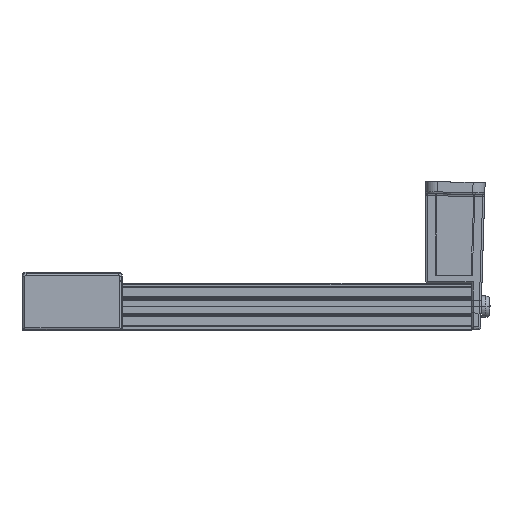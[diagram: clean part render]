
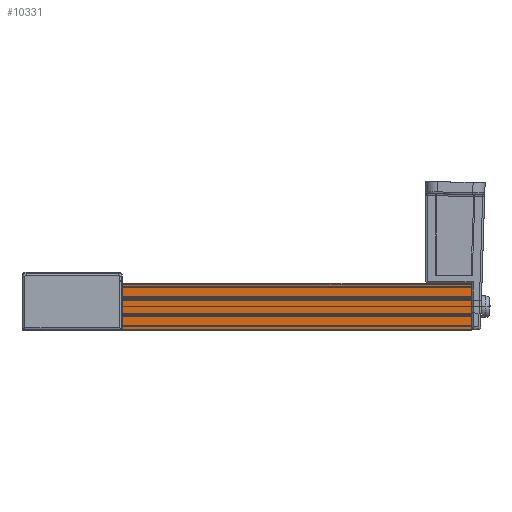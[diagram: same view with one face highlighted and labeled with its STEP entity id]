
A CAD part, left-side view. The second image highlights one B-rep face of the part: STEP entity #10331.
In plain terms, the highlighted planar face has unit normal (-1, 0, 0).
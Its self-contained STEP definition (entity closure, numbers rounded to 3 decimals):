
#240 = DIRECTION ( 'NONE',  ( 0., 0., -1. ) ) ;
#1299 = CARTESIAN_POINT ( 'NONE',  ( -221., 0., -3. ) ) ;
#1518 = EDGE_CURVE ( 'NONE', #10251, #11272, #12394, .T. ) ;
#1876 = EDGE_CURVE ( 'NONE', #12350, #20020, #8352, .T. ) ;
#2022 = DIRECTION ( 'NONE',  ( -1., 0., 0. ) ) ;
#2071 = CARTESIAN_POINT ( 'NONE',  ( -221., -87., -14.2 ) ) ;
#2562 = CARTESIAN_POINT ( 'NONE',  ( -221., -86.867, -3. ) ) ;
#3253 = LINE ( 'NONE', #2562, #11825 ) ;
#3851 = VECTOR ( 'NONE', #8587, 1000. ) ;
#3970 = ORIENTED_EDGE ( 'NONE', *, *, #20652, .T. ) ;
#4695 = LINE ( 'NONE', #1299, #8478 ) ;
#4831 = CARTESIAN_POINT ( 'NONE',  ( -221., -87., -14.2 ) ) ;
#6815 = CARTESIAN_POINT ( 'NONE',  ( -221., -87., -3.15 ) ) ;
#8054 = AXIS2_PLACEMENT_3D ( 'NONE', #10142, #2022, #240 ) ;
#8247 = DIRECTION ( 'NONE',  ( 0., 0., -1. ) ) ;
#8352 = LINE ( 'NONE', #2071, #18697 ) ;
#8424 = VERTEX_POINT ( 'NONE', #9983 ) ;
#8478 = VECTOR ( 'NONE', #8247, 1000. ) ;
#8587 = DIRECTION ( 'NONE',  ( 0., 0., -1. ) ) ;
#8886 = ORIENTED_EDGE ( 'NONE', *, *, #18126, .F. ) ;
#9162 = LINE ( 'NONE', #6815, #3851 ) ;
#9814 = CARTESIAN_POINT ( 'NONE',  ( -221., -86.867, -3. ) ) ;
#9983 = CARTESIAN_POINT ( 'NONE',  ( -221., -87., -3.15 ) ) ;
#10142 = CARTESIAN_POINT ( 'NONE',  ( -221., 0., -2.7 ) ) ;
#10251 = VERTEX_POINT ( 'NONE', #9814 ) ;
#10331 = ADVANCED_FACE ( 'NONE', ( #17259 ), #17796, .T. ) ;
#10778 = EDGE_CURVE ( 'NONE', #8424, #12350, #9162, .T. ) ;
#10798 = CARTESIAN_POINT ( 'NONE',  ( -221., 0., -3. ) ) ;
#11272 = VERTEX_POINT ( 'NONE', #10798 ) ;
#11825 = VECTOR ( 'NONE', #18739, 1000. ) ;
#12350 = VERTEX_POINT ( 'NONE', #4831 ) ;
#12394 = LINE ( 'NONE', #16016, #15451 ) ;
#13605 = DIRECTION ( 'NONE',  ( 0., 1., 0. ) ) ;
#15451 = VECTOR ( 'NONE', #15889, 1000. ) ;
#15889 = DIRECTION ( 'NONE',  ( 0., 1., 0. ) ) ;
#15907 = CARTESIAN_POINT ( 'NONE',  ( -221., 0., -14.2 ) ) ;
#16016 = CARTESIAN_POINT ( 'NONE',  ( -221., -86.867, -3. ) ) ;
#16257 = EDGE_LOOP ( 'NONE', ( #17073, #3970, #16891, #20510, #8886 ) ) ;
#16891 = ORIENTED_EDGE ( 'NONE', *, *, #1876, .F. ) ;
#17073 = ORIENTED_EDGE ( 'NONE', *, *, #1518, .T. ) ;
#17259 = FACE_OUTER_BOUND ( 'NONE', #16257, .T. ) ;
#17796 = PLANE ( 'NONE',  #8054 ) ;
#18126 = EDGE_CURVE ( 'NONE', #10251, #8424, #3253, .T. ) ;
#18697 = VECTOR ( 'NONE', #13605, 1000. ) ;
#18739 = DIRECTION ( 'NONE',  ( 0., -0.664, -0.747 ) ) ;
#20020 = VERTEX_POINT ( 'NONE', #15907 ) ;
#20510 = ORIENTED_EDGE ( 'NONE', *, *, #10778, .F. ) ;
#20652 = EDGE_CURVE ( 'NONE', #11272, #20020, #4695, .T. ) ;
